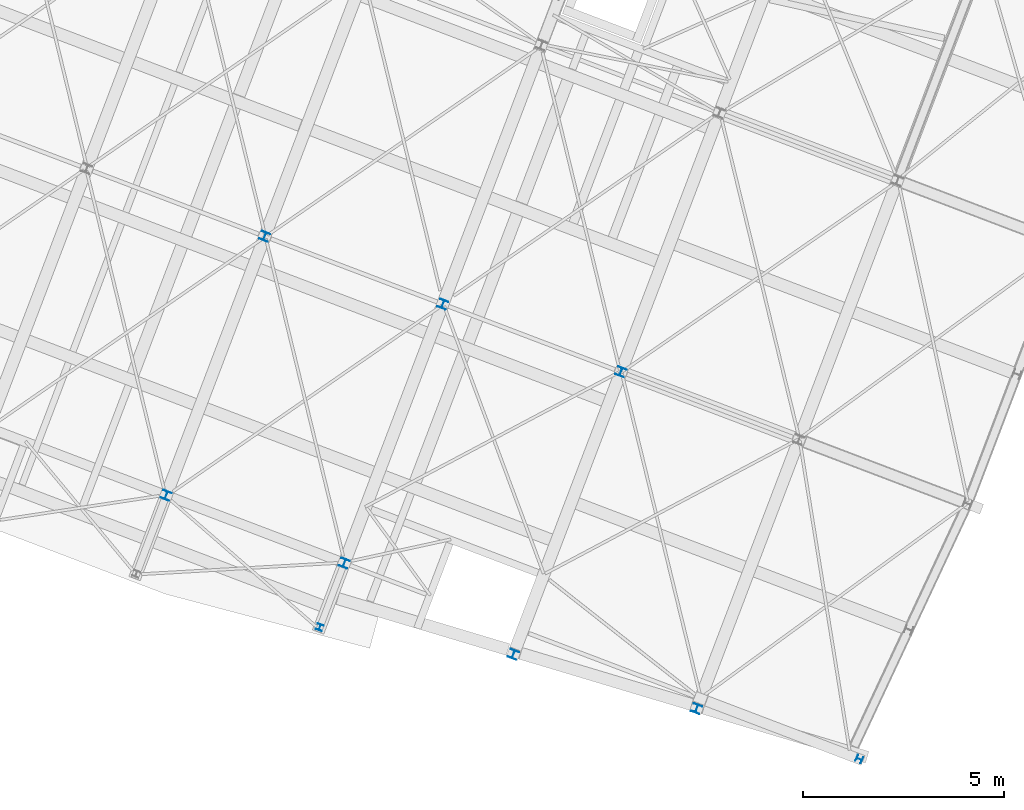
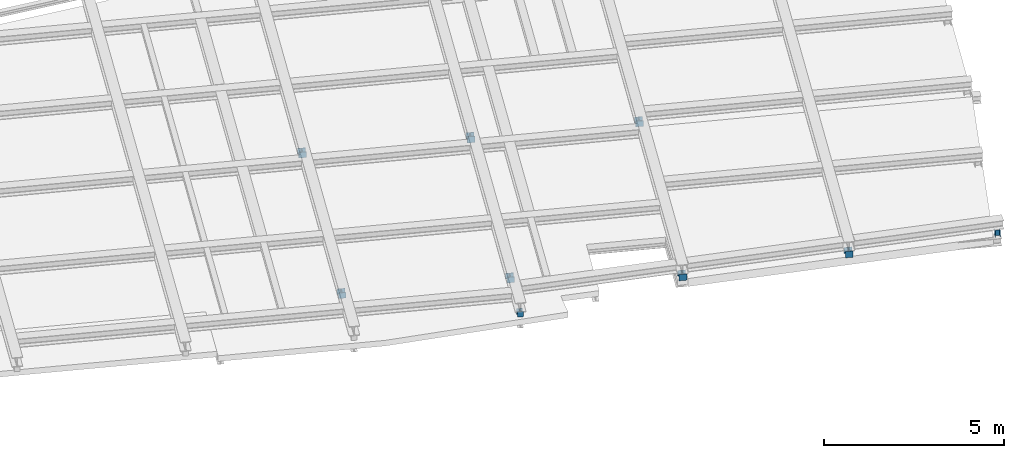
# One storey, part 5 of 21: 9 columns.
"""IFC2X3 building model written with IfcOpenShell, lengths in millimetres."""

from ifc_helpers import new_model, entity, si_unit, converted_unit, derived_unit, direction, frame, frame_2d, origin, origin_2d_with_axis, place, context, subcontext, project, spatial, i_section, extrude, source, transform, mapped, material, type_object, type_shapes, element, save


model = new_model("IFC2X3")

# Units and contexts
model_context = context("Model", 3, precision=0.01, world=origin(), true_north=direction((6.123233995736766e-17, 1.0)))
body_context = subcontext(model_context, "Body", "Model", "MODEL_VIEW")
ifc_project = project(units=[si_unit("LENGTHUNIT", "METRE", prefix="MILLI"), converted_unit("PLANEANGLEUNIT", "DEGREE", entity("IfcPlaneAngleMeasure", 0.017453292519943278), si_unit("PLANEANGLEUNIT", "RADIAN"), dimensions=[0, 0, 0, 0, 0, 0, 0]), si_unit("AREAUNIT", "SQUARE_METRE"), derived_unit("THERMALTRANSMITTANCEUNIT", [(si_unit("MASSUNIT", "GRAM", prefix="KILO"), 1), (si_unit("THERMODYNAMICTEMPERATUREUNIT", "KELVIN"), -1), (si_unit("TIMEUNIT", "SECOND"), -3)])], contexts=[model_context])

# Site, building, storey
site_placement = place(None, frame((-72937.88054949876, 11621.45624098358, 0.0), z_axis=(0.0, 0.0, 1.0), x_axis=(0.9346418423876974, -0.35559053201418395, 0.0)))
site = spatial("IfcSite", under=ifc_project, at=site_placement, Name="Default", CompositionType="ELEMENT")
building_placement = place(site_placement, origin())
building = spatial("IfcBuilding", under=site, at=building_placement, CompositionType="ELEMENT")
storey_placement = place(building_placement, frame((0.0, 0.0, 4250.0)))
storey = spatial("IfcBuildingStorey", under=building, at=storey_placement, Name="01 eerste verdieping", CompositionType="ELEMENT", Elevation=4250.0)

# Columns
ifc_material = material(Name="metaal_staal_generiek")
column_type_1 = type_object("IfcColumnType", Name="DIE16", PredefinedType="COLUMN", material=ifc_material)
shared_shape_1 = source(origin(), body_context, "Body", "SweptSolid", [
    extrude(i_section(OverallWidth=160.0, OverallDepth=152.0, WebThickness=5.999999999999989, FlangeThickness=9.000000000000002, FilletRadius=15.0, at=frame_2d((0.0, 7.105427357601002e-15), x_axis=(1.0, 0.0))), frame((0.0, 0.0, 4190.0), z_axis=(0.0, 0.0, 1.0), x_axis=(-1.0, 0.0, 0.0)), (0.0, 0.0, 1.0), 190.0000000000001),
])
type_shapes(column_type_1, [shared_shape_1])
column_1_placement = place(storey_placement, frame((66520.0002830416, 15000.000119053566, -4250.0), z_axis=(0.0, 0.0, 1.0), x_axis=(0.07392507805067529, 0.9972637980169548, 0.0)))
element("IfcColumn", 1, at=column_1_placement, inside=storey, type_object=column_type_1, material=ifc_material, Name="28.11_SCO_KolomHEA:DIE16", ObjectType="28.11_SCO_KolomHEA:DIE16", context=body_context, shape_type="MappedRepresentation", body=[
    mapped(shared_shape_1, transform((0.0, 0.0, 0.0), scale=1.0)),
])
column_2_placement = place(storey_placement, frame((52840.0, 13295.839397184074, -4250.0)))
element("IfcColumn", 2, at=column_2_placement, inside=storey, type_object=column_type_1, material=ifc_material, Name="28.11_SCO_KolomHEA:DIE16", ObjectType="28.11_SCO_KolomHEA:DIE16", context=body_context, shape_type="MappedRepresentation", body=[
    mapped(shared_shape_1, transform((0.0, 0.0, 0.0), scale=1.0)),
])
column_type_2 = type_object("IfcColumnType", Name="DIE22", PredefinedType="COLUMN", material=ifc_material)
shared_shape_2 = source(origin(), body_context, "Body", "SweptSolid", [
    extrude(i_section(OverallWidth=219.99999999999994, OverallDepth=209.99999999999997, WebThickness=6.999999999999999, FlangeThickness=11.000000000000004, FilletRadius=18.0, at=origin_2d_with_axis()), frame((0.0, 0.0, 4190.0), z_axis=(0.0, 0.0, 1.0), x_axis=(-1.0, 0.0, 0.0)), (0.0, 0.0, 1.0), 189.99999999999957),
])
type_shapes(column_type_2, [shared_shape_2])
for number, where in (
    (3, (52840.0, 15000.0, -4250.0)),
    (4, (48110.0, 15000.0, -4250.0)),
    (5, (48110.0, 21880.0, -4250.0)),
    (6, (57570.0, 21880.0, -4250.0)),
):
    element("IfcColumn", number, at=place(storey_placement, frame(where)), inside=storey, type_object=column_type_2, material=ifc_material, Name="28.11_SCO_KolomHEA:DIE22", ObjectType="28.11_SCO_KolomHEA:DIE22", context=body_context, shape_type="MappedRepresentation", body=[
        mapped(shared_shape_2, transform((0.0, 0.0, 0.0), scale=1.0)),
    ])
column_type_3 = type_object("IfcColumnType", Name="DIE22", PredefinedType="COLUMN", material=ifc_material)
shared_shape_3 = source(origin(), body_context, "Body", "SweptSolid", [
    extrude(i_section(OverallWidth=219.99999999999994, OverallDepth=209.99999999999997, WebThickness=6.999999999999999, FlangeThickness=11.000000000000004, FilletRadius=18.0, at=origin_2d_with_axis()), frame((0.0, 0.0, 4170.0), z_axis=(0.0, 0.0, 1.0), x_axis=(-1.0, 0.0, 0.0)), (0.0, 0.0, 1.0), 210.00000000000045),
])
type_shapes(column_type_3, [shared_shape_3])
for number, where in (
    (7, (62300.0, 14735.0, -4250.0)),
    (8, (57570.0, 14375.0, -4250.0)),
):
    element("IfcColumn", number, at=place(storey_placement, frame(where)), inside=storey, type_object=column_type_3, material=ifc_material, Name="28.11_SCO_KolomHEA:DIE22", ObjectType="28.11_SCO_KolomHEA:DIE22", context=body_context, shape_type="MappedRepresentation", body=[
        mapped(shared_shape_3, transform((0.0, 0.0, 0.0), scale=1.0)),
    ])
column_type_4 = type_object("IfcColumnType", Name="DIE22", PredefinedType="COLUMN", material=ifc_material)
shared_shape_4 = source(origin(), body_context, "Body", "SweptSolid", [
    extrude(i_section(OverallWidth=220.00000000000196, OverallDepth=209.9999999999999, WebThickness=6.999999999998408, FlangeThickness=11.000000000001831, FilletRadius=18.0, at=frame_2d((-8.668621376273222e-12, -2.1671553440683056e-12), x_axis=(1.0, 0.0))), frame((52840.0, 21880.0, 4170.0), z_axis=(0.0, 0.0, 1.0), x_axis=(-1.0, 0.0, 0.0)), (0.0, 0.0, 1.0), 210.00000000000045),
])
type_shapes(column_type_4, [shared_shape_4])
column_3_placement = place(storey_placement, frame((0.0, 0.0, -4250.0)))
element("IfcColumn", 9, at=column_3_placement, inside=storey, type_object=column_type_4, material=ifc_material, Name="28.11_SCO_KolomHEA:DIE22", ObjectType="28.11_SCO_KolomHEA:DIE22", context=body_context, shape_type="MappedRepresentation", body=[
    mapped(shared_shape_4, transform((0.0, 0.0, 0.0), scale=1.0)),
])

save(model, "model.ifc")
